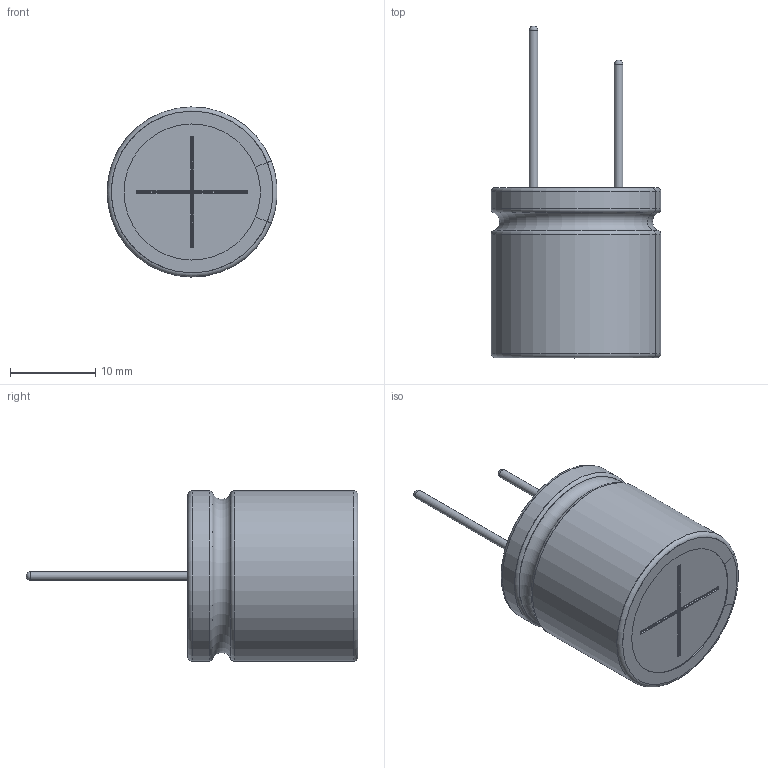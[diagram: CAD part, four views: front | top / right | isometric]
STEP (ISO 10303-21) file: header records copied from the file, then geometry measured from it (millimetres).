
FILE_DESCRIPTION(/* description */ (''),/* implementation_level */ '2;1');
FILE_NAME(/* name */ '20x20_Lead.stp',/* time_stamp */ '2017-09-05T15:08:31+09:00',/* author */ (''),/* organization */ (''),/* preprocessor_version */ 'ST-DEVELOPER v16',/* originating_system */ 'SIEMENS PLM Software NX 11.0',/* authorisation */ '');
FILE_SCHEMA (('AUTOMOTIVE_DESIGN { 1 0 10303 214 3 1 1 1 }'));
Length unit declared in the file: millimetre
Products named in the file (1): 20x20_Lead_0
Bounding box: 19.97 x 39 x 20 mm (x, y, z)
Volume: 6176 mm3; surface area: 4949.6 mm2
Topology: 3 solids, 3 shells, 100 faces, 252 edges, 160 vertices
Faces by surface type: cylinder 36, plane 28, torus 26, sphere 6, bspline 4
Full cylindrical faces by diameter (mm): 1 x2, 19.8 x2
Entity records: 3386 total; most frequent: CARTESIAN_POINT 605, DIRECTION 566, ORIENTED_EDGE 468, AXIS2_PLACEMENT_3D 235, EDGE_CURVE 234, VERTEX_POINT 154, CIRCLE 130, EDGE_LOOP 114
